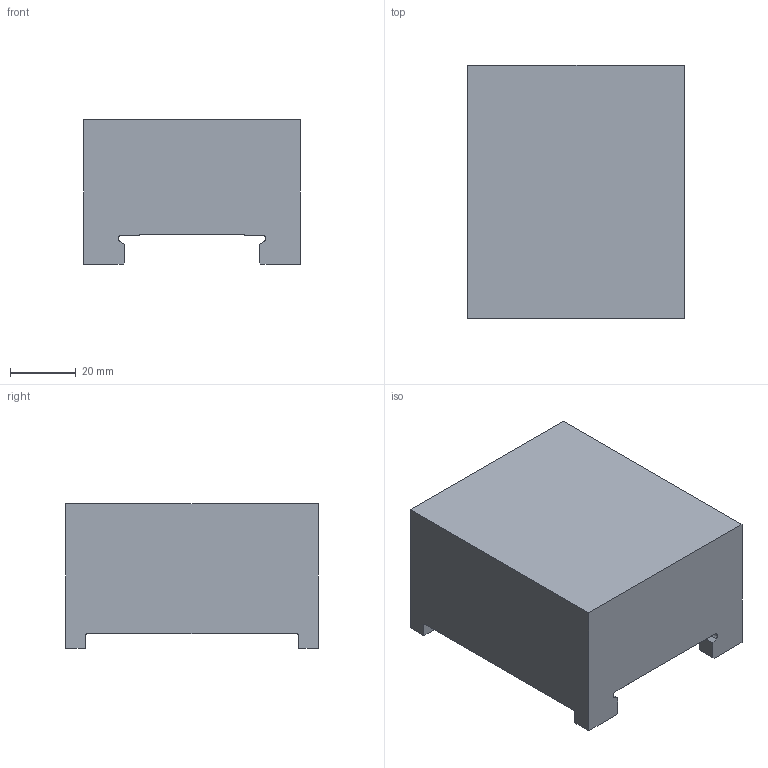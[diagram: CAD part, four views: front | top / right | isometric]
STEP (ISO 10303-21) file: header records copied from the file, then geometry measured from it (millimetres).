
FILE_DESCRIPTION (( 'STEP AP203' ), '1' );
FILE_NAME ('682410-44.STEP', '2020-06-03T08:11:26', ( '' ), ( '' ), 'SwSTEP 2.0', 'SolidWorks 2018', '' );
FILE_SCHEMA (( 'CONFIG_CONTROL_DESIGN' ));
Length unit declared in the file: millimetre
Products named in the file (2): 682410-44
Bounding box: 66 x 77 x 44 mm (x, y, z)
Volume: 187490.4 mm3; surface area: 22795.5 mm2
Topology: 1 solids, 1 shells, 40 faces, 114 edges, 76 vertices
Faces by surface type: plane 30, cylinder 10
Entity records: 1445 total; most frequent: CARTESIAN_POINT 256, ORIENTED_EDGE 228, DIRECTION 202, EDGE_CURVE 114, VECTOR 94, LINE 94, VERTEX_POINT 76, AXIS2_PLACEMENT_3D 54
